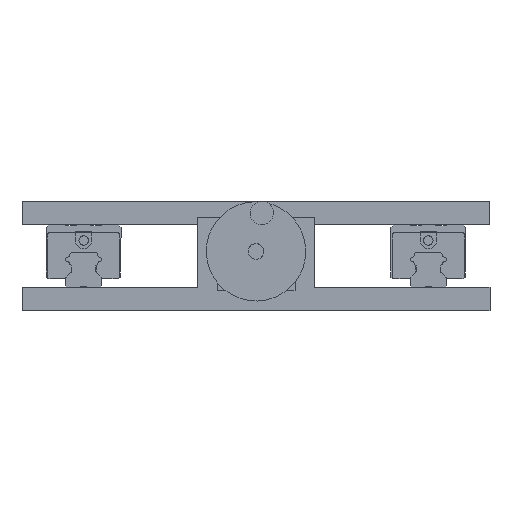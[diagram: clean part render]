
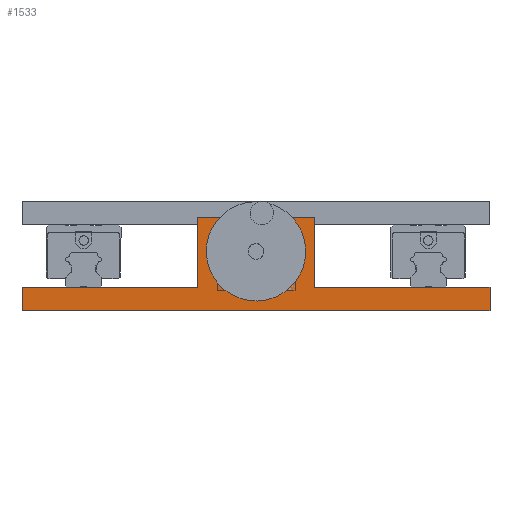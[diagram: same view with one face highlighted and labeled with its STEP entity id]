
A CAD part, front view. The second image highlights one B-rep face of the part: STEP entity #1533.
In plain terms, the highlighted planar face has unit normal (0, -1, 0).
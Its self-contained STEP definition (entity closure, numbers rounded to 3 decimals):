
#1098 = CARTESIAN_POINT ( 'NONE',  ( -37.5, -416.5, 15. ) ) ;
#1533 = ADVANCED_FACE ( 'NONE', ( #70448, #67547 ), #5359, .F. ) ;
#1741 = VECTOR ( 'NONE', #66911, 1000. ) ;
#1773 = VERTEX_POINT ( 'NONE', #62594 ) ;
#1824 = VECTOR ( 'NONE', #23885, 1000. ) ;
#5359 = PLANE ( 'NONE',  #59564 ) ;
#5666 = DIRECTION ( 'NONE',  ( 0., -1., 0. ) ) ;
#5956 = LINE ( 'NONE', #14503, #10685 ) ;
#10685 = VECTOR ( 'NONE', #45393, 1000. ) ;
#11280 = CARTESIAN_POINT ( 'NONE',  ( 37.5, -416.5, 15. ) ) ;
#11854 = CARTESIAN_POINT ( 'NONE',  ( -150., -416.5, 15. ) ) ;
#12460 = VECTOR ( 'NONE', #18067, 1000. ) ;
#13490 = AXIS2_PLACEMENT_3D ( 'NONE', #60769, #5666, #23944 ) ;
#13710 = EDGE_LOOP ( 'NONE', ( #77359, #43553 ) ) ;
#14503 = CARTESIAN_POINT ( 'NONE',  ( -37.5, -416.5, 60. ) ) ;
#15856 = VERTEX_POINT ( 'NONE', #11280 ) ;
#17124 = EDGE_CURVE ( 'NONE', #61732, #23429, #53520, .T. ) ;
#18067 = DIRECTION ( 'NONE',  ( 1., 0., 0. ) ) ;
#18342 = CIRCLE ( 'NONE', #63528, 5. ) ;
#19079 = DIRECTION ( 'NONE',  ( 1., 0., 0. ) ) ;
#19365 = CARTESIAN_POINT ( 'NONE',  ( -150., -416.5, 0. ) ) ;
#19472 = ORIENTED_EDGE ( 'NONE', *, *, #25723, .T. ) ;
#20834 = CARTESIAN_POINT ( 'NONE',  ( 0., -416.5, 38. ) ) ;
#23429 = VERTEX_POINT ( 'NONE', #77223 ) ;
#23882 = CARTESIAN_POINT ( 'NONE',  ( -150., -416.5, 15. ) ) ;
#23885 = DIRECTION ( 'NONE',  ( 0., 0., -1. ) ) ;
#23944 = DIRECTION ( 'NONE',  ( 0., 0., 1. ) ) ;
#24184 = CARTESIAN_POINT ( 'NONE',  ( -150., -416.5, 15. ) ) ;
#25723 = EDGE_CURVE ( 'NONE', #1773, #49174, #55598, .T. ) ;
#26123 = DIRECTION ( 'NONE',  ( 1., 0., 0. ) ) ;
#26283 = ORIENTED_EDGE ( 'NONE', *, *, #79223, .F. ) ;
#27686 = EDGE_LOOP ( 'NONE', ( #19472, #26283, #76476, #70041, #64010, #41345, #29566, #52882 ) ) ;
#28947 = VERTEX_POINT ( 'NONE', #70756 ) ;
#29566 = ORIENTED_EDGE ( 'NONE', *, *, #34714, .F. ) ;
#32513 = DIRECTION ( 'NONE',  ( 1., 0., 0. ) ) ;
#32630 = DIRECTION ( 'NONE',  ( 0., 0., 1. ) ) ;
#33555 = LINE ( 'NONE', #11854, #12460 ) ;
#34714 = EDGE_CURVE ( 'NONE', #42581, #73116, #78776, .T. ) ;
#35971 = CARTESIAN_POINT ( 'NONE',  ( 37.5, -416.5, 60. ) ) ;
#36509 = LINE ( 'NONE', #60703, #1824 ) ;
#37304 = CARTESIAN_POINT ( 'NONE',  ( -37.5, -416.5, 60. ) ) ;
#39471 = EDGE_CURVE ( 'NONE', #23429, #61732, #18342, .T. ) ;
#41345 = ORIENTED_EDGE ( 'NONE', *, *, #46792, .T. ) ;
#42581 = VERTEX_POINT ( 'NONE', #71285 ) ;
#43553 = ORIENTED_EDGE ( 'NONE', *, *, #39471, .F. ) ;
#43885 = CARTESIAN_POINT ( 'NONE',  ( 37.5, -416.5, 60. ) ) ;
#45393 = DIRECTION ( 'NONE',  ( 0., 0., -1. ) ) ;
#46792 = EDGE_CURVE ( 'NONE', #63488, #73116, #5956, .T. ) ;
#46962 = VECTOR ( 'NONE', #49839, 1000. ) ;
#48379 = LINE ( 'NONE', #56249, #60889 ) ;
#49174 = VERTEX_POINT ( 'NONE', #68139 ) ;
#49800 = VECTOR ( 'NONE', #32513, 1000. ) ;
#49839 = DIRECTION ( 'NONE',  ( 0., 0., -1. ) ) ;
#50903 = EDGE_CURVE ( 'NONE', #63488, #69570, #48379, .T. ) ;
#51724 = DIRECTION ( 'NONE',  ( 0., -1., 0. ) ) ;
#52882 = ORIENTED_EDGE ( 'NONE', *, *, #65911, .T. ) ;
#53520 = CIRCLE ( 'NONE', #13490, 5. ) ;
#54000 = DIRECTION ( 'NONE',  ( 0., 1., 0. ) ) ;
#55598 = LINE ( 'NONE', #19365, #49800 ) ;
#56249 = CARTESIAN_POINT ( 'NONE',  ( -37.5, -416.5, 60. ) ) ;
#56675 = CARTESIAN_POINT ( 'NONE',  ( -150., -416.5, 15. ) ) ;
#59028 = EDGE_CURVE ( 'NONE', #69570, #15856, #69124, .T. ) ;
#59564 = AXIS2_PLACEMENT_3D ( 'NONE', #24184, #54000, #59943 ) ;
#59943 = DIRECTION ( 'NONE',  ( 0., 0., 1. ) ) ;
#60703 = CARTESIAN_POINT ( 'NONE',  ( 150., -416.5, 15. ) ) ;
#60769 = CARTESIAN_POINT ( 'NONE',  ( 0., -416.5, 38. ) ) ;
#60889 = VECTOR ( 'NONE', #26123, 1000. ) ;
#61687 = EDGE_CURVE ( 'NONE', #15856, #28947, #33555, .T. ) ;
#61732 = VERTEX_POINT ( 'NONE', #62912 ) ;
#62594 = CARTESIAN_POINT ( 'NONE',  ( -150., -416.5, 0. ) ) ;
#62912 = CARTESIAN_POINT ( 'NONE',  ( 0., -416.5, 43. ) ) ;
#63488 = VERTEX_POINT ( 'NONE', #37304 ) ;
#63528 = AXIS2_PLACEMENT_3D ( 'NONE', #20834, #51724, #32630 ) ;
#64010 = ORIENTED_EDGE ( 'NONE', *, *, #50903, .F. ) ;
#65911 = EDGE_CURVE ( 'NONE', #42581, #1773, #78817, .T. ) ;
#66911 = DIRECTION ( 'NONE',  ( 0., 0., -1. ) ) ;
#67547 = FACE_OUTER_BOUND ( 'NONE', #27686, .T. ) ;
#68139 = CARTESIAN_POINT ( 'NONE',  ( 150., -416.5, 0. ) ) ;
#69124 = LINE ( 'NONE', #43885, #46962 ) ;
#69570 = VERTEX_POINT ( 'NONE', #35971 ) ;
#70041 = ORIENTED_EDGE ( 'NONE', *, *, #59028, .F. ) ;
#70448 = FACE_BOUND ( 'NONE', #13710, .T. ) ;
#70756 = CARTESIAN_POINT ( 'NONE',  ( 150., -416.5, 15. ) ) ;
#71285 = CARTESIAN_POINT ( 'NONE',  ( -150., -416.5, 15. ) ) ;
#73116 = VERTEX_POINT ( 'NONE', #1098 ) ;
#76476 = ORIENTED_EDGE ( 'NONE', *, *, #61687, .F. ) ;
#76844 = VECTOR ( 'NONE', #19079, 1000. ) ;
#77223 = CARTESIAN_POINT ( 'NONE',  ( 0., -416.5, 33. ) ) ;
#77359 = ORIENTED_EDGE ( 'NONE', *, *, #17124, .F. ) ;
#78776 = LINE ( 'NONE', #56675, #76844 ) ;
#78817 = LINE ( 'NONE', #23882, #1741 ) ;
#79223 = EDGE_CURVE ( 'NONE', #28947, #49174, #36509, .T. ) ;
